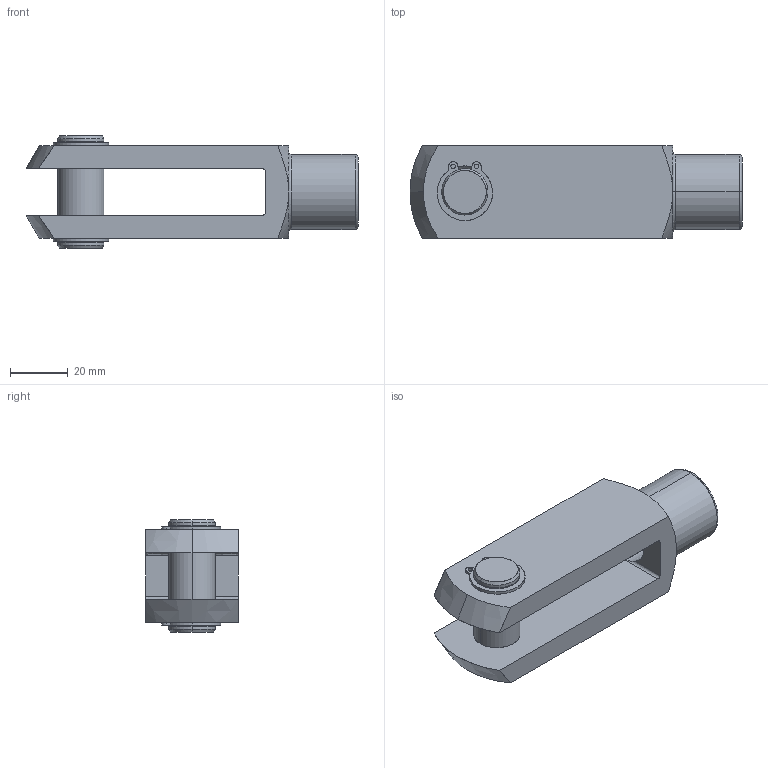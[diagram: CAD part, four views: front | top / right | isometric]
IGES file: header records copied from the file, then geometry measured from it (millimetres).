
Start section: SolidWorks IGES file using analytic representation for surfaces
Global section: file name: C:\Documents and Settings\IANO\My Documents\Wix and Auto CAD Work\CAD Models\Parametric Models\Wix Models\60000\65614_v2\65614_v2_IGES\65614.W0167.igs; native system: SolidWorks 2009; preprocessor: SolidWorks 2009; author: IANO; date: 140118.104135; units: millimetre
Bounding box: 115 x 32 x 39 mm (x, y, z)
Surface area: 21596 mm2 (no closed solid volume)
Topology: 0 solids, 0 shells, 95 faces, 1716 edges, 1716 vertices
Faces by surface type: revolution 63, bspline 32
